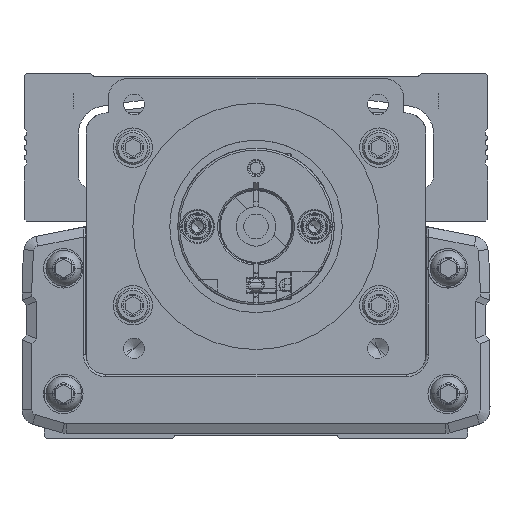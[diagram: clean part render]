
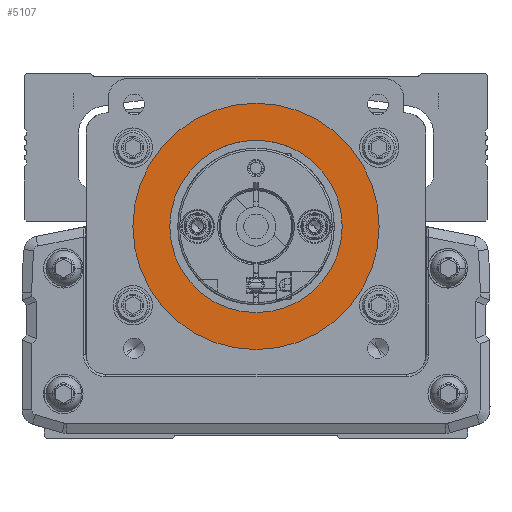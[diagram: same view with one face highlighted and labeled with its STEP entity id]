
A CAD part, front view. The second image highlights one B-rep face of the part: STEP entity #5107.
In plain terms, the highlighted planar face has unit normal (0, -1, 0).
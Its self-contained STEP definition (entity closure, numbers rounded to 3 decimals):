
#5107=ADVANCED_FACE('',(#12438,#12439),#12440,.T.);
#12438=FACE_BOUND('',#22988,.T.);
#12439=FACE_OUTER_BOUND('',#22989,.T.);
#12440=PLANE('',#22990);
#22988=EDGE_LOOP('',(#39060,#39061));
#22989=EDGE_LOOP('',(#39062,#39063));
#22990=AXIS2_PLACEMENT_3D('',#39064,#39065,#39066);
#39060=ORIENTED_EDGE('',*,*,#62836,.T.);
#39061=ORIENTED_EDGE('',*,*,#64167,.T.);
#39062=ORIENTED_EDGE('',*,*,#64168,.F.);
#39063=ORIENTED_EDGE('',*,*,#64169,.F.);
#39064=CARTESIAN_POINT('',(0.,-310.778,0.));
#39065=DIRECTION('',(0.,-1.0,0.));
#39066=DIRECTION('',(1.0,0.,0.));
#62836=EDGE_CURVE('',#76163,#76161,#76164,.T.);
#64167=EDGE_CURVE('',#76161,#76163,#78300,.T.);
#64168=EDGE_CURVE('',#78301,#78302,#78303,.T.);
#64169=EDGE_CURVE('',#78302,#78301,#78304,.T.);
#76161=VERTEX_POINT('',#94708);
#76163=VERTEX_POINT('',#94711);
#76164=CIRCLE('',#94712,17.5);
#78300=CIRCLE('',#97817,17.5);
#78301=VERTEX_POINT('',#97818);
#78302=VERTEX_POINT('',#97819);
#78303=CIRCLE('',#97820,25.0);
#78304=CIRCLE('',#97821,25.0);
#94708=CARTESIAN_POINT('',(-17.5,-310.778,0.));
#94711=CARTESIAN_POINT('',(17.5,-310.778,0.));
#94712=AXIS2_PLACEMENT_3D('',#114426,#114427,#114428);
#97817=AXIS2_PLACEMENT_3D('',#116191,#116192,#116193);
#97818=CARTESIAN_POINT('',(25.,-310.778,0.));
#97819=CARTESIAN_POINT('',(-25.,-310.778,0.));
#97820=AXIS2_PLACEMENT_3D('',#116194,#116195,#116196);
#97821=AXIS2_PLACEMENT_3D('',#116197,#116198,#116199);
#114426=CARTESIAN_POINT('',(0.,-310.778,0.));
#114427=DIRECTION('',(0.,1.0,0.));
#114428=DIRECTION('',(-1.0,0.,0.));
#116191=CARTESIAN_POINT('',(0.,-310.778,0.));
#116192=DIRECTION('',(0.,1.0,0.));
#116193=DIRECTION('',(-1.0,0.,0.));
#116194=CARTESIAN_POINT('',(0.,-310.778,0.));
#116195=DIRECTION('',(0.,1.0,0.));
#116196=DIRECTION('',(1.0,0.,0.));
#116197=CARTESIAN_POINT('',(0.,-310.778,0.));
#116198=DIRECTION('',(0.,1.0,0.));
#116199=DIRECTION('',(1.0,0.,0.));
